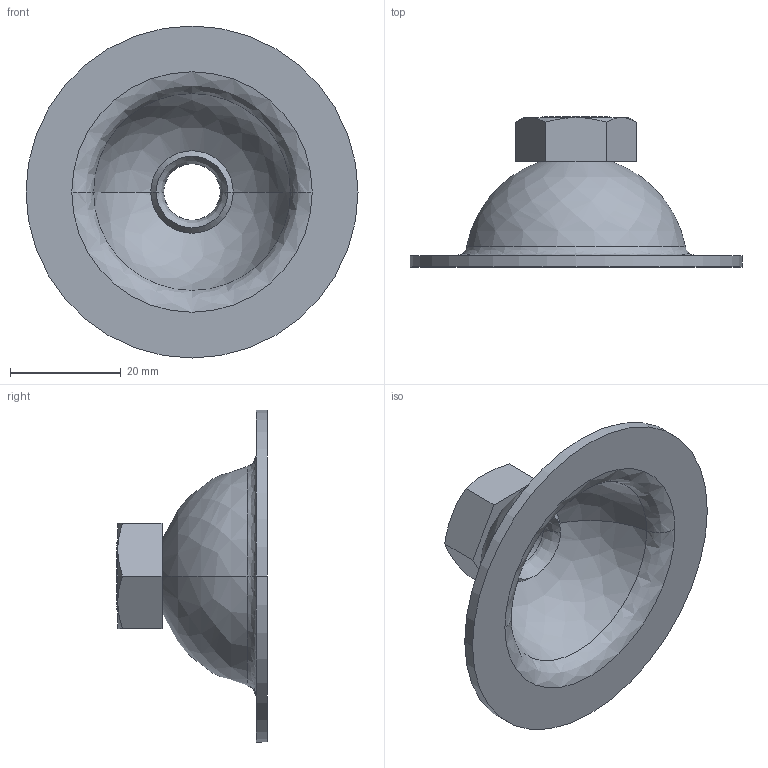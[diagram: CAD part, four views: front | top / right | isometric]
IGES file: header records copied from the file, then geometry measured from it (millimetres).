
Start section:  PTC IGES file: S-NARW-12.igs
Global section: file name: S-NARW-12.igs; native system: Creo Parametric by Parametric Technology Corporation; preprocessor: 2012360; author: xeon_3; organization: Unknown; date: 20130822.152059; units: millimetre
Bounding box: 60 x 27.16 x 60 mm (x, y, z)
Volume: 9317.5 mm3; surface area: 10951.8 mm2
Topology: 1 solids, 2 shells, 38 faces, 104 edges, 90 vertices
Faces by surface type: revolution 28, bspline 10
